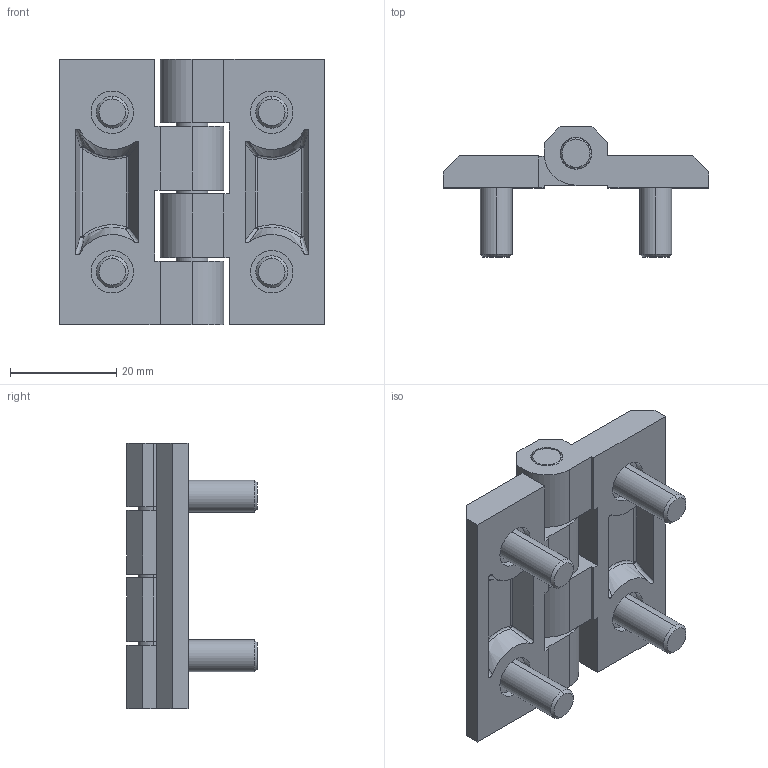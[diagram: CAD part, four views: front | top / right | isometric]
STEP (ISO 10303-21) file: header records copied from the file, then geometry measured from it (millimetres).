
FILE_DESCRIPTION (( 'STEP AP214' ), '1' );
FILE_NAME ('SK2-021-2.STEP', '2020-04-15T06:31:36', ( 'admin' ), ( 'Microsoft' ), 'SwSTEP 2.0', 'SolidWorks 2018', '' );
FILE_SCHEMA (( 'AUTOMOTIVE_DESIGN' ));
Length unit declared in the file: millimetre
Products named in the file (3): 2-021-2-F2; 2-021-2-F1; SK2-021-2
Assembly tree (3 placements, depth 2):
  SK2-021-2
    2-021-2-F1  x2
    2-021-2-F2
Bounding box: 50 x 24.5 x 50 mm (x, y, z)
Volume: 16180.9 mm3; surface area: 10744.3 mm2
Topology: 3 solids, 3 shells, 236 faces, 572 edges, 352 vertices
Faces by surface type: plane 162, cylinder 34, bspline 16, sphere 12, cone 12
Entity records: 5383 total; most frequent: CARTESIAN_POINT 1331, ORIENTED_EDGE 826, DIRECTION 791, EDGE_CURVE 413, AXIS2_PLACEMENT_3D 274, VERTEX_POINT 252, LINE 243, VECTOR 243
